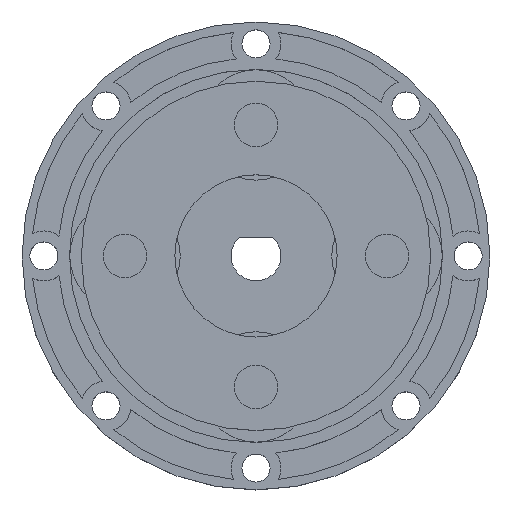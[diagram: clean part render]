
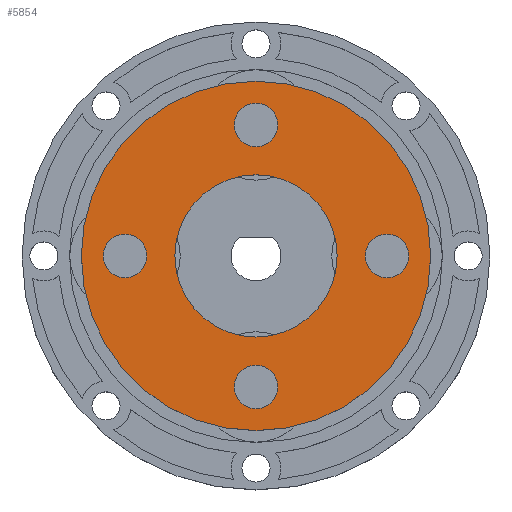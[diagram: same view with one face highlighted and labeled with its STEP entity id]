
A CAD part, top view. The second image highlights one B-rep face of the part: STEP entity #5854.
In plain terms, the highlighted planar face has unit normal (0, 0, 1).
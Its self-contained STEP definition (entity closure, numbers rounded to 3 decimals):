
#66 = CARTESIAN_POINT ( 'NONE',  ( 21., -3.5, 8.35 ) ) ;
#71 = DIRECTION ( 'NONE',  ( 0., 0., 1. ) ) ;
#257 = CARTESIAN_POINT ( 'NONE',  ( 0., 0., 8.35 ) ) ;
#318 = CIRCLE ( 'NONE', #682, 3.5 ) ;
#352 = AXIS2_PLACEMENT_3D ( 'NONE', #1573, #837, #7782 ) ;
#592 = CARTESIAN_POINT ( 'NONE',  ( 0., -21., 8.35 ) ) ;
#682 = AXIS2_PLACEMENT_3D ( 'NONE', #10232, #9311, #2419 ) ;
#786 = EDGE_CURVE ( 'NONE', #3038, #1684, #3447, .T. ) ;
#810 = CIRCLE ( 'NONE', #4087, 3.5 ) ;
#837 = DIRECTION ( 'NONE',  ( 0., 0., 1. ) ) ;
#841 = AXIS2_PLACEMENT_3D ( 'NONE', #592, #11027, #4963 ) ;
#939 = CARTESIAN_POINT ( 'NONE',  ( -3.5, -21., 8.35 ) ) ;
#1202 = AXIS2_PLACEMENT_3D ( 'NONE', #9527, #5935, #5192 ) ;
#1559 = CARTESIAN_POINT ( 'NONE',  ( 0., 0., 8.35 ) ) ;
#1567 = CARTESIAN_POINT ( 'NONE',  ( 0., 0., 8.35 ) ) ;
#1573 = CARTESIAN_POINT ( 'NONE',  ( -21., 0., 8.35 ) ) ;
#1578 = AXIS2_PLACEMENT_3D ( 'NONE', #5194, #71, #5139 ) ;
#1684 = VERTEX_POINT ( 'NONE', #3749 ) ;
#1731 = DIRECTION ( 'NONE',  ( 1., 0., 0. ) ) ;
#1756 = CIRCLE ( 'NONE', #1578, 3.5 ) ;
#1824 = ORIENTED_EDGE ( 'NONE', *, *, #10668, .T. ) ;
#1849 = DIRECTION ( 'NONE',  ( 0., 0., 1. ) ) ;
#2067 = CARTESIAN_POINT ( 'NONE',  ( 0., 0., 8.35 ) ) ;
#2180 = VERTEX_POINT ( 'NONE', #6681 ) ;
#2419 = DIRECTION ( 'NONE',  ( 0., -1., 0. ) ) ;
#2468 = VERTEX_POINT ( 'NONE', #66 ) ;
#2472 = FACE_OUTER_BOUND ( 'NONE', #9132, .T. ) ;
#2480 = DIRECTION ( 'NONE',  ( 0., 0., 1. ) ) ;
#2523 = CARTESIAN_POINT ( 'NONE',  ( -3.5, 21., 8.35 ) ) ;
#2530 = CARTESIAN_POINT ( 'NONE',  ( -28., 0., 8.35 ) ) ;
#2642 = EDGE_LOOP ( 'NONE', ( #5083, #9588 ) ) ;
#2688 = CIRCLE ( 'NONE', #4500, 13. ) ;
#2934 = DIRECTION ( 'NONE',  ( 1., 0., 0. ) ) ;
#3038 = VERTEX_POINT ( 'NONE', #8363 ) ;
#3080 = EDGE_CURVE ( 'NONE', #9851, #3251, #810, .T. ) ;
#3251 = VERTEX_POINT ( 'NONE', #3338 ) ;
#3338 = CARTESIAN_POINT ( 'NONE',  ( 3.5, 21., 8.35 ) ) ;
#3447 = CIRCLE ( 'NONE', #4177, 13. ) ;
#3520 = CARTESIAN_POINT ( 'NONE',  ( 0., 21., 8.35 ) ) ;
#3581 = AXIS2_PLACEMENT_3D ( 'NONE', #1559, #5030, #7437 ) ;
#3749 = CARTESIAN_POINT ( 'NONE',  ( 13., 0., 8.35 ) ) ;
#4015 = VERTEX_POINT ( 'NONE', #7799 ) ;
#4087 = AXIS2_PLACEMENT_3D ( 'NONE', #7397, #10084, #8416 ) ;
#4153 = CIRCLE ( 'NONE', #352, 3.5 ) ;
#4177 = AXIS2_PLACEMENT_3D ( 'NONE', #257, #1849, #2934 ) ;
#4324 = CARTESIAN_POINT ( 'NONE',  ( 0., 0., 8.35 ) ) ;
#4434 = ORIENTED_EDGE ( 'NONE', *, *, #4867, .F. ) ;
#4464 = AXIS2_PLACEMENT_3D ( 'NONE', #2067, #5539, #8159 ) ;
#4500 = AXIS2_PLACEMENT_3D ( 'NONE', #4324, #5299, #5072 ) ;
#4794 = CARTESIAN_POINT ( 'NONE',  ( 28., 0., 8.35 ) ) ;
#4867 = EDGE_CURVE ( 'NONE', #4015, #2180, #5918, .T. ) ;
#4963 = DIRECTION ( 'NONE',  ( -1., 0., 0. ) ) ;
#4974 = CARTESIAN_POINT ( 'NONE',  ( 3.5, -21., 8.35 ) ) ;
#5002 = EDGE_CURVE ( 'NONE', #6049, #6294, #9380, .T. ) ;
#5030 = DIRECTION ( 'NONE',  ( 0., 0., 1. ) ) ;
#5072 = DIRECTION ( 'NONE',  ( 1., 0., 0. ) ) ;
#5083 = ORIENTED_EDGE ( 'NONE', *, *, #5984, .F. ) ;
#5139 = DIRECTION ( 'NONE',  ( -1., 0., 0. ) ) ;
#5143 = EDGE_CURVE ( 'NONE', #9546, #9907, #7572, .T. ) ;
#5167 = ORIENTED_EDGE ( 'NONE', *, *, #5931, .F. ) ;
#5192 = DIRECTION ( 'NONE',  ( 0., 1., 0. ) ) ;
#5194 = CARTESIAN_POINT ( 'NONE',  ( 0., -21., 8.35 ) ) ;
#5299 = DIRECTION ( 'NONE',  ( 0., 0., 1. ) ) ;
#5335 = EDGE_LOOP ( 'NONE', ( #9765, #7916 ) ) ;
#5369 = EDGE_LOOP ( 'NONE', ( #5552, #4434 ) ) ;
#5386 = DIRECTION ( 'NONE',  ( 0., -1., 0. ) ) ;
#5539 = DIRECTION ( 'NONE',  ( 0., 0., 1. ) ) ;
#5552 = ORIENTED_EDGE ( 'NONE', *, *, #7328, .F. ) ;
#5618 = AXIS2_PLACEMENT_3D ( 'NONE', #3520, #9559, #9387 ) ;
#5730 = FACE_BOUND ( 'NONE', #5369, .T. ) ;
#5780 = FACE_BOUND ( 'NONE', #2642, .T. ) ;
#5854 = ADVANCED_FACE ( 'NONE', ( #5730, #5780, #6580, #6684, #2472, #10179 ), #9363, .T. ) ;
#5918 = CIRCLE ( 'NONE', #1202, 3.5 ) ;
#5931 = EDGE_CURVE ( 'NONE', #2468, #9941, #318, .T. ) ;
#5935 = DIRECTION ( 'NONE',  ( 0., 0., 1. ) ) ;
#5984 = EDGE_CURVE ( 'NONE', #9907, #9546, #1756, .T. ) ;
#6049 = VERTEX_POINT ( 'NONE', #2530 ) ;
#6121 = CARTESIAN_POINT ( 'NONE',  ( 21., 0., 8.35 ) ) ;
#6128 = CIRCLE ( 'NONE', #9408, 3.5 ) ;
#6294 = VERTEX_POINT ( 'NONE', #4794 ) ;
#6515 = DIRECTION ( 'NONE',  ( 0., 0., 1. ) ) ;
#6580 = FACE_BOUND ( 'NONE', #10945, .T. ) ;
#6681 = CARTESIAN_POINT ( 'NONE',  ( -21., -3.5, 8.35 ) ) ;
#6684 = FACE_BOUND ( 'NONE', #5335, .T. ) ;
#6945 = ORIENTED_EDGE ( 'NONE', *, *, #7381, .F. ) ;
#7020 = ORIENTED_EDGE ( 'NONE', *, *, #786, .F. ) ;
#7328 = EDGE_CURVE ( 'NONE', #2180, #4015, #4153, .T. ) ;
#7381 = EDGE_CURVE ( 'NONE', #9941, #2468, #6128, .T. ) ;
#7397 = CARTESIAN_POINT ( 'NONE',  ( 0., 21., 8.35 ) ) ;
#7437 = DIRECTION ( 'NONE',  ( 1., 0., 0. ) ) ;
#7572 = CIRCLE ( 'NONE', #841, 3.5 ) ;
#7622 = CIRCLE ( 'NONE', #5618, 3.5 ) ;
#7687 = EDGE_CURVE ( 'NONE', #1684, #3038, #2688, .T. ) ;
#7782 = DIRECTION ( 'NONE',  ( 0., 1., 0. ) ) ;
#7799 = CARTESIAN_POINT ( 'NONE',  ( -21., 3.5, 8.35 ) ) ;
#7846 = CIRCLE ( 'NONE', #9306, 28. ) ;
#7916 = ORIENTED_EDGE ( 'NONE', *, *, #8232, .F. ) ;
#8159 = DIRECTION ( 'NONE',  ( 1., 0., 0. ) ) ;
#8232 = EDGE_CURVE ( 'NONE', #3251, #9851, #7622, .T. ) ;
#8363 = CARTESIAN_POINT ( 'NONE',  ( -13., 0., 8.35 ) ) ;
#8400 = EDGE_LOOP ( 'NONE', ( #7020, #9520 ) ) ;
#8416 = DIRECTION ( 'NONE',  ( 1., 0., 0. ) ) ;
#9132 = EDGE_LOOP ( 'NONE', ( #10694, #1824 ) ) ;
#9306 = AXIS2_PLACEMENT_3D ( 'NONE', #1567, #2480, #1731 ) ;
#9311 = DIRECTION ( 'NONE',  ( 0., 0., 1. ) ) ;
#9363 = PLANE ( 'NONE',  #3581 ) ;
#9380 = CIRCLE ( 'NONE', #4464, 28. ) ;
#9387 = DIRECTION ( 'NONE',  ( 1., 0., 0. ) ) ;
#9408 = AXIS2_PLACEMENT_3D ( 'NONE', #6121, #6515, #5386 ) ;
#9520 = ORIENTED_EDGE ( 'NONE', *, *, #7687, .F. ) ;
#9527 = CARTESIAN_POINT ( 'NONE',  ( -21., 0., 8.35 ) ) ;
#9546 = VERTEX_POINT ( 'NONE', #939 ) ;
#9559 = DIRECTION ( 'NONE',  ( 0., 0., 1. ) ) ;
#9588 = ORIENTED_EDGE ( 'NONE', *, *, #5143, .F. ) ;
#9765 = ORIENTED_EDGE ( 'NONE', *, *, #3080, .F. ) ;
#9851 = VERTEX_POINT ( 'NONE', #2523 ) ;
#9907 = VERTEX_POINT ( 'NONE', #4974 ) ;
#9941 = VERTEX_POINT ( 'NONE', #10395 ) ;
#10084 = DIRECTION ( 'NONE',  ( 0., 0., 1. ) ) ;
#10179 = FACE_BOUND ( 'NONE', #8400, .T. ) ;
#10232 = CARTESIAN_POINT ( 'NONE',  ( 21., 0., 8.35 ) ) ;
#10395 = CARTESIAN_POINT ( 'NONE',  ( 21., 3.5, 8.35 ) ) ;
#10668 = EDGE_CURVE ( 'NONE', #6294, #6049, #7846, .T. ) ;
#10694 = ORIENTED_EDGE ( 'NONE', *, *, #5002, .T. ) ;
#10945 = EDGE_LOOP ( 'NONE', ( #6945, #5167 ) ) ;
#11027 = DIRECTION ( 'NONE',  ( 0., 0., 1. ) ) ;
